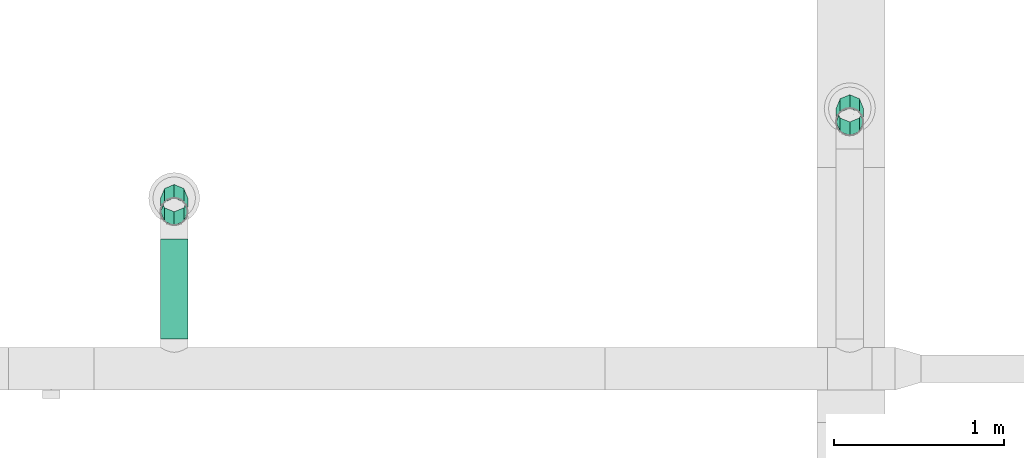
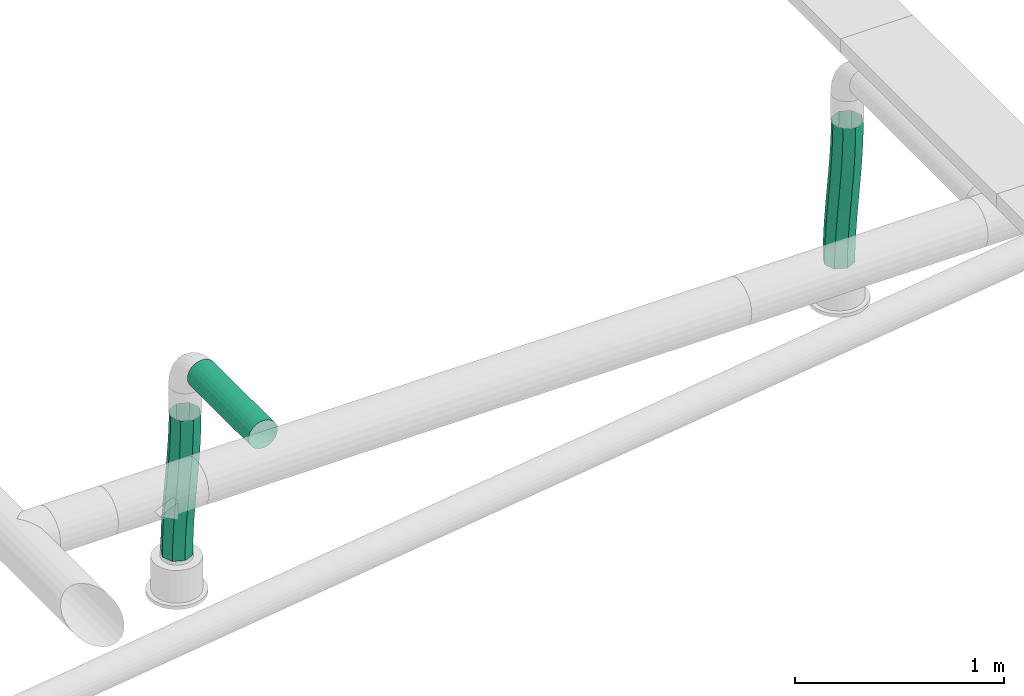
# One storey, part 321 of 374: 3 flow segments.
"""IFC2X3 building model written with IfcOpenShell, lengths in metres."""

from ifc_helpers import new_model, si_unit, direction, origin, place, context, subcontext, project, spatial, open_shell, surface_model, source, transform, mapped, element, save


model = new_model("IFC2X3")

# Units and contexts
model_context = context("Model", 3, precision=1e-05, world=origin(), true_north=direction((-0.4480736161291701, 0.8939966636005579)))
body_context = subcontext(model_context, "Body", "Model", "MODEL_VIEW")
ifc_project = project(units=[si_unit("LENGTHUNIT", "METRE"), si_unit("AREAUNIT", "SQUARE_METRE"), si_unit("VOLUMEUNIT", "CUBIC_METRE"), si_unit("PLANEANGLEUNIT", "RADIAN"), si_unit("THERMODYNAMICTEMPERATUREUNIT", "KELVIN"), si_unit("MASSUNIT", "GRAM", prefix="KILO"), si_unit("TIMEUNIT", "SECOND")], contexts=[model_context])

# Site, building, storey
site_placement = place(None, origin())
site = spatial("IfcSite", under=ifc_project, at=site_placement, Name="Site 1", CompositionType="ELEMENT")
building_placement = place(site_placement, origin())
building = spatial("IfcBuilding", under=site, at=building_placement, Name="Undefined", CompositionType="ELEMENT")
storey_placement = place(building_placement, origin())
storey = spatial("IfcBuildingStorey", under=building, at=storey_placement, Name="Rez de chauss\x8ee", CompositionType="ELEMENT", Elevation=0.0)

# Flow segments
shared_shape_1 = source(origin(), body_context, "Body", "SurfaceModel", [
    surface_model("IfcFaceBasedSurfaceModel", [(0.0, 0.020884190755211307, 0.0), (0.0, 0.0, 0.0), (0.5860112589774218, 0.0, 0.0), (0.5860112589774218, 0.020884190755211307, 0.0), (0.0, -0.020172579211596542, -0.005405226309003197), (0.5860112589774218, -0.020172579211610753, -0.005405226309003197), (0.0, -0.03825881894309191, -0.015847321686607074), (0.5860112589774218, -0.038258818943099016, -0.015847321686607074), (0.0, -0.05302617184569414, -0.0306146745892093), (0.5860112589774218, -0.05302617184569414, -0.0306146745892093), (0.0, -0.06346826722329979, -0.04870091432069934), (0.5860112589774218, -0.06346826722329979, -0.048700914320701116), (0.0, -0.06887349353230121, -0.06887349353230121), (0.5860112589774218, -0.06887349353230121, -0.06887349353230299), (0.0, -0.06887349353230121, -0.08975768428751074), (0.5860112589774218, -0.06887349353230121, -0.08975768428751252), (0.0, -0.06346826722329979, -0.10993026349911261), (0.5860112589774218, -0.06346826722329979, -0.10993026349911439), (0.0, -0.05302617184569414, -0.12801650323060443), (0.5860112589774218, -0.05302617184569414, -0.12801650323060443), (0.0, -0.038258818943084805, -0.14278385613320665), (0.5860112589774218, -0.03825881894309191, -0.14278385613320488), (0.0, -0.020172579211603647, -0.15322595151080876), (0.5860112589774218, -0.020172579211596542, -0.15322595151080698), (0.0, 7.105427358e-15, -0.15863117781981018), (0.5860112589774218, 7.105427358e-15, -0.15863117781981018), (0.0, 0.020884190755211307, -0.15863117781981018), (0.5860112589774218, 0.020884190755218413, -0.1586311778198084), (0.0, 0.04105676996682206, -0.15322595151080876), (0.5860112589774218, 0.04105676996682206, -0.15322595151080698), (0.0, 0.05914300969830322, -0.1427838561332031), (0.5860112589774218, 0.05914300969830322, -0.14278385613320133), (0.0, 0.07391036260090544, -0.12801650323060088), (0.5860112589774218, 0.07391036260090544, -0.1280165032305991), (0.0, 0.0843524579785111, -0.10993026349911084), (0.5860112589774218, 0.0843524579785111, -0.10993026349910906), (0.0, 0.08975768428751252, -0.08975768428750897), (0.5860112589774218, 0.08975768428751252, -0.08975768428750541), (0.0, 0.08975768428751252, -0.06887349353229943), (0.5860112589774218, 0.08975768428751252, -0.06887349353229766), (0.0, 0.0843524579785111, -0.048700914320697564), (0.5860112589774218, 0.0843524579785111, -0.04870091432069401), (0.0, 0.07391036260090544, -0.030614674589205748), (0.5860112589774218, 0.07391036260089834, -0.030614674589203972), (0.0, 0.05914300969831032, -0.015847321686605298), (0.5860112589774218, 0.05914300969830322, -0.015847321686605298), (0.0, 0.04105676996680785, -0.005405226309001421), (0.5860112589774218, 0.041056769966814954, -0.005405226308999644)], [open_shell([[[0, 1, 2, 3]], [[1, 4, 5, 2]], [[4, 6, 7, 5]], [[6, 8, 9, 7]], [[8, 10, 11, 9]], [[10, 12, 13, 11]], [[12, 14, 15, 13]], [[14, 16, 17, 15]], [[16, 18, 19, 17]], [[18, 20, 21, 19]], [[20, 22, 23, 21]], [[22, 24, 25, 23]], [[24, 26, 27, 25]], [[26, 28, 29, 27]], [[28, 30, 31, 29]], [[30, 32, 33, 31]], [[32, 34, 35, 33]], [[34, 36, 37, 35]], [[36, 38, 39, 37]], [[38, 40, 41, 39]], [[40, 42, 43, 41]], [[42, 44, 45, 43]], [[44, 46, 47, 45]], [[46, 0, 3, 47]]])]),
])
flow_segment_1_placement = place(storey_placement, origin())
element("IfcFlowSegment", 1, at=flow_segment_1_placement, inside=storey, Name="Tube", ObjectType="Tube", context=body_context, shape_type="MappedRepresentation", body=[
    mapped(shared_shape_1, transform((53.41731591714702, 22.832875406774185, 3.877274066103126), x_axis=(0.0, 1.0, 0.0), y_axis=(-0.9914448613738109, 0.0, 0.1305261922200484), z_axis=(0.1305261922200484, 0.0, 0.9914448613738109))),
])
shared_shape_2 = source(origin(), body_context, "Body", "SurfaceModel", [
    surface_model("IfcFaceBasedSurfaceModel", [(0.09425708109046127, 7.105427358e-15, 0.0), (0.05356602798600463, 0.045752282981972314, 0.0), (0.0, 0.0, 0.0), (0.03894014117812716, -0.047251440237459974, -1.1507138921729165e-06), (-0.05541274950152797, -0.04404152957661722, 0.0010358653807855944), (-0.017993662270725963, -0.0925064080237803, 0.0010617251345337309), (-0.11243305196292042, -0.08679099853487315, 0.002911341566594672), (-0.0762209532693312, -0.1361641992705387, 0.0029758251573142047), (-0.17075715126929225, -0.1286221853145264, 0.005426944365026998), (-0.13541835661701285, -0.17862411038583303, 0.005528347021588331), (-0.23007333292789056, -0.16991458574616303, 0.008379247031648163), (-0.19526249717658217, -0.22028543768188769, 0.00850648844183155), (-0.2900642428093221, -0.21105506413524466, 0.011560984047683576), (-0.2554300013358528, -0.2615474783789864, 0.011697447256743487), (-0.3504083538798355, -0.2524386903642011, 0.014761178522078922), (-0.3155975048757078, -0.3028095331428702, 0.014888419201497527), (-0.4107804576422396, -0.29446897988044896, 0.017765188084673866), (-0.37544164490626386, -0.344470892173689, 0.01786658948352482), (-0.4708511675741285, -0.3375576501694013, 0.02035465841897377), (-0.43463905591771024, -0.386930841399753, 0.020419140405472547), (-0.5302854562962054, -0.38212378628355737, 0.02230739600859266), (-0.4928663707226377, -0.4305886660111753, 0.02233325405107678), (-0.5887403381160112, -0.4285921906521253, 0.023397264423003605), (-0.5498002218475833, -0.47584365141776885, 0.02339611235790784), (-0.6458082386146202, -0.477342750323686, 0.02339489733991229), (-0.6051172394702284, -0.523095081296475, 0.023394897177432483), (0.025061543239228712, 0.07834277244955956, -0.043294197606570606), (-0.027779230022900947, 0.033211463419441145, -0.043293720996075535), (-0.08256193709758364, -0.010327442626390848, -0.042269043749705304), (-0.13908228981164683, -0.052700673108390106, -0.04040956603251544), (-0.1970446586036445, -0.09427143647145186, -0.03790925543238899), (-0.2561421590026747, -0.13541102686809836, -0.03496765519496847), (-0.31605992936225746, -0.17650115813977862, -0.03178973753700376), (-0.3764771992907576, -0.21793514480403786, -0.02858572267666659), (-0.4370679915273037, -0.2601182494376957, -0.025571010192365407), (-0.49750042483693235, -0.30346733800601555, -0.022966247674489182), (-0.5574346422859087, -0.3484096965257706, -0.020997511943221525), (-0.6165195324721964, -0.3953806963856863, -0.01989645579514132), (-0.674312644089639, -0.4447521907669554, -0.019899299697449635), (0.025441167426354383, 0.07868040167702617, -0.10452143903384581), (-0.028124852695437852, 0.03292812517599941, -0.10452143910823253), (-0.08353759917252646, -0.011113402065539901, -0.10348557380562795), (-0.14055790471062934, -0.053862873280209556, -0.10161009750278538), (-0.19888201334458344, -0.09569406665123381, -0.09909449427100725), (-0.2581982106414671, -0.1369864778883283, -0.09614219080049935), (-0.31818914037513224, -0.17812696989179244, -0.09296045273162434), (-0.3785332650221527, -0.21951060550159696, -0.08976025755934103), (-0.43890536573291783, -0.26154089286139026, -0.08675624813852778), (-0.49897605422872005, -0.30462954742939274, -0.0841667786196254), (-0.5584103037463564, -0.3491956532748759, -0.08221404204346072), (-0.616865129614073, -0.3956640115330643, -0.08112417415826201), (-0.6739329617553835, -0.44441451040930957, -0.08112654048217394), (0.05448252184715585, 0.0465673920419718, -0.14781563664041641), (-0.0008344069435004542, -0.0006840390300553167, -0.14781678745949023), (-0.057768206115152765, -0.045939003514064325, -0.14675391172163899), (-0.1159955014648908, -0.08959679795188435, -0.1448398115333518), (-0.17519291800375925, -0.13205671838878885, -0.14228728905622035), (-0.2350370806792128, -0.1737180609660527, -0.13930914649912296), (-0.29520461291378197, -0.21498012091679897, -0.1361181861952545), (-0.3553721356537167, -0.25624218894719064, -0.1329272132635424), (-0.41521627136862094, -0.2979035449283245, -0.12994904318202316), (-0.4744136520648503, -0.34036347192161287, -0.12739649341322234), (-0.5326409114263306, -0.38402125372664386, -0.12548238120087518), (-0.58957468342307, -0.42927617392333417, -0.12441952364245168), (-0.6448916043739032, -0.4765275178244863, -0.12442073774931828), (0.0951735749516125, 0.0008151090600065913, -0.14781563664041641), (0.03810573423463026, -0.0479354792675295, -0.1478179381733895), (-0.02034911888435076, -0.0944038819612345, -0.14672805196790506), (-0.07978340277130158, -0.13896999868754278, -0.14477532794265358), (-0.1398541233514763, -0.1820586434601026, -0.14218588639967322), (-0.20022624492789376, -0.22408891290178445, -0.13918190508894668), (-0.2605703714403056, -0.2654725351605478, -0.1359817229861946), (-0.32056128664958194, -0.30661303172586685, -0.1327999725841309), (-0.3798774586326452, -0.3479054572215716, -0.1298476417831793), (-0.4382015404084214, -0.38973666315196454, -0.12733201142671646), (-0.49522182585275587, -0.4324861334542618, -0.12545652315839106), (-0.5506345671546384, -0.47652763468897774, -0.12442067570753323), (-0.6042006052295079, -0.5222798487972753, -0.12442073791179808), (0.12367805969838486, -0.03177538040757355, -0.1045214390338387), (0.06588496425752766, -0.08114694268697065, -0.10452421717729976), (0.006800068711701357, -0.12811796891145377, -0.10342314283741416), (-0.05313416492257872, -0.17306032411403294, -0.10145442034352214), (-0.11356661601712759, -0.21640939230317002, -0.09884968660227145), (-0.17415741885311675, -0.258592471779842, -0.09583500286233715), (-0.23457468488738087, -0.30002644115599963, -0.09263100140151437), (-0.2944924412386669, -0.34111657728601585, -0.08945307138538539), (-0.3535899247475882, -0.3822561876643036, -0.08651144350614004), (-0.41155228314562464, -0.4238269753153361, -0.08401110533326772), (-0.46807263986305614, -0.46620022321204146, -0.08215161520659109), (-0.522855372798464, -0.5097391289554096, -0.08112695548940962), (-0.5756961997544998, -0.5548704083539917, -0.08112654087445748), (0.12329843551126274, -0.03211300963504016, -0.043294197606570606), (0.06623058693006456, -0.0808636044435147, -0.043296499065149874), (0.007775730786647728, -0.12733200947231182, -0.04220661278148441), (-0.05165855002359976, -0.17189812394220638, -0.04025388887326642), (-0.11172926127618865, -0.21498676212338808, -0.03766444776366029), (-0.1721013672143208, -0.2570170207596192, -0.03466046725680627), (-0.23244547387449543, -0.2984006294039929, -0.031460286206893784), (-0.2924363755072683, -0.33954111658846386, -0.02827853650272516), (-0.3517525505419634, -0.3808335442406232, -0.025326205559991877), (-0.4100766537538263, -0.4226647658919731, -0.022810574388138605), (-0.4670969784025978, -0.46541426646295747, -0.02093508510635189), (-0.5225097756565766, -0.5094558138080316, -0.019899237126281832), (-0.5760758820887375, -0.5552080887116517, -0.019899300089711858)], [open_shell([[[0, 1, 2]], [[2, 3, 0]], [[3, 2, 4]], [[4, 5, 3]], [[5, 4, 6]], [[6, 7, 5]], [[7, 6, 8]], [[8, 9, 7]], [[9, 8, 10]], [[10, 11, 9]], [[11, 10, 12]], [[12, 13, 11]], [[13, 12, 14]], [[14, 15, 13]], [[15, 14, 16]], [[16, 17, 15]], [[17, 16, 18]], [[18, 19, 17]], [[19, 18, 20]], [[20, 21, 19]], [[21, 20, 22]], [[22, 23, 21]], [[23, 22, 24]], [[24, 25, 23]], [[1, 26, 27]], [[27, 2, 1]], [[2, 27, 28]], [[28, 4, 2]], [[4, 28, 29]], [[29, 6, 4]], [[6, 29, 30]], [[30, 8, 6]], [[8, 30, 31]], [[31, 10, 8]], [[10, 31, 32]], [[32, 12, 10]], [[12, 32, 33]], [[33, 14, 12]], [[14, 33, 34]], [[34, 16, 14]], [[16, 34, 35]], [[35, 18, 16]], [[18, 35, 36]], [[36, 20, 18]], [[20, 36, 37]], [[37, 22, 20]], [[22, 37, 38]], [[38, 24, 22]], [[26, 39, 40]], [[40, 27, 26]], [[27, 40, 41]], [[41, 28, 27]], [[28, 41, 42]], [[42, 29, 28]], [[29, 42, 43]], [[43, 30, 29]], [[30, 43, 44]], [[44, 31, 30]], [[31, 44, 45]], [[45, 32, 31]], [[32, 45, 46]], [[46, 33, 32]], [[33, 46, 47]], [[47, 34, 33]], [[34, 47, 48]], [[48, 35, 34]], [[35, 48, 49]], [[49, 36, 35]], [[36, 49, 50]], [[50, 37, 36]], [[37, 50, 51]], [[51, 38, 37]], [[39, 52, 53]], [[53, 40, 39]], [[40, 53, 54]], [[54, 41, 40]], [[41, 54, 55]], [[55, 42, 41]], [[42, 55, 56]], [[56, 43, 42]], [[43, 56, 57]], [[57, 44, 43]], [[44, 57, 58]], [[58, 45, 44]], [[45, 58, 59]], [[59, 46, 45]], [[46, 59, 60]], [[60, 47, 46]], [[47, 60, 61]], [[61, 48, 47]], [[48, 61, 62]], [[62, 49, 48]], [[49, 62, 63]], [[63, 50, 49]], [[50, 63, 64]], [[64, 51, 50]], [[52, 65, 66]], [[66, 53, 52]], [[53, 66, 67]], [[67, 54, 53]], [[54, 67, 68]], [[68, 55, 54]], [[55, 68, 69]], [[69, 56, 55]], [[56, 69, 70]], [[70, 57, 56]], [[57, 70, 71]], [[71, 58, 57]], [[58, 71, 72]], [[72, 59, 58]], [[59, 72, 73]], [[73, 60, 59]], [[60, 73, 74]], [[74, 61, 60]], [[61, 74, 75]], [[75, 62, 61]], [[62, 75, 76]], [[76, 63, 62]], [[63, 76, 77]], [[77, 64, 63]], [[65, 78, 79]], [[79, 66, 65]], [[66, 79, 80]], [[80, 67, 66]], [[67, 80, 81]], [[81, 68, 67]], [[68, 81, 82]], [[82, 69, 68]], [[69, 82, 83]], [[83, 70, 69]], [[70, 83, 84]], [[84, 71, 70]], [[71, 84, 85]], [[85, 72, 71]], [[72, 85, 86]], [[86, 73, 72]], [[73, 86, 87]], [[87, 74, 73]], [[74, 87, 88]], [[88, 75, 74]], [[75, 88, 89]], [[89, 76, 75]], [[76, 89, 90]], [[90, 77, 76]], [[78, 91, 92]], [[92, 79, 78]], [[79, 92, 93]], [[93, 80, 79]], [[80, 93, 94]], [[94, 81, 80]], [[81, 94, 95]], [[95, 82, 81]], [[82, 95, 96]], [[96, 83, 82]], [[83, 96, 97]], [[97, 84, 83]], [[84, 97, 98]], [[98, 85, 84]], [[85, 98, 99]], [[99, 86, 85]], [[86, 99, 100]], [[100, 87, 86]], [[87, 100, 101]], [[101, 88, 87]], [[88, 101, 102]], [[102, 89, 88]], [[89, 102, 103]], [[103, 90, 89]], [[91, 0, 3]], [[3, 92, 91]], [[92, 3, 5]], [[5, 93, 92]], [[93, 5, 7]], [[7, 94, 93]], [[94, 7, 9]], [[9, 95, 94]], [[95, 9, 11]], [[11, 96, 95]], [[96, 11, 13]], [[13, 97, 96]], [[97, 13, 15]], [[15, 98, 97]], [[98, 15, 17]], [[17, 99, 98]], [[99, 17, 19]], [[19, 100, 99]], [[100, 19, 21]], [[21, 101, 100]], [[101, 21, 23]], [[23, 102, 101]], [[102, 23, 25]], [[25, 103, 102]]])]),
])
flow_segment_2_placement = place(storey_placement, origin())
element("IfcFlowSegment", 2, at=flow_segment_2_placement, inside=storey, Name="Tube flexible", ObjectType="Tube flexible", context=body_context, shape_type="MappedRepresentation", body=[
    mapped(shared_shape_2, transform((53.3400418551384, 23.636982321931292, 3.409570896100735), x_axis=(-0.24859099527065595, -0.6163532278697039, 0.7472022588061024), y_axis=(0.2910462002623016, 0.6882384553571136, 0.664544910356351), z_axis=(-0.923847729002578, 0.38267025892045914, 0.008297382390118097))),
])
shared_shape_3 = source(origin(), body_context, "Body", "SurfaceModel", [
    surface_model("IfcFaceBasedSurfaceModel", [(0.09425708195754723, -7.105427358e-15, 0.0), (0.05356602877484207, 0.04575228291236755, 0.0), (0.0, 0.0, 0.0), (0.03894014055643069, -0.04725144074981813, -1.1506872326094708e-06), (-0.05541275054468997, -0.044041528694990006, 0.0010358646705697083), (-0.01799366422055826, -0.09250640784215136, 0.001061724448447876), (-0.11243305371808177, -0.0867909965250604, 0.002911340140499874), (-0.07622095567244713, -0.13616419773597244, 0.002975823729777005), (-0.1707571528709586, -0.12862218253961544, 0.0054269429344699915), (-0.13541835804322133, -0.17862410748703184, 0.005528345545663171), (-0.2300733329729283, -0.16991458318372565, 0.00837924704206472), (-0.19526249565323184, -0.22028543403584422, 0.008506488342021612), (-0.29006423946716, -0.2110550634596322, 0.011560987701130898), (-0.25542999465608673, -0.2615474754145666, 0.011697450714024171), (-0.3504083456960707, -0.2524386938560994, 0.01476118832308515), (-0.3155974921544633, -0.3028095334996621, 0.01488842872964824), (-0.41078044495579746, -0.29446898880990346, 0.017765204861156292), (-0.3754416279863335, -0.3444708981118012, 0.017866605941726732), (-0.47085115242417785, -0.3375576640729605, 0.020354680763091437), (-0.43463903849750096, -0.3869308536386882, 0.020419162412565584), (-0.5302854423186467, -0.38212380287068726, 0.02230742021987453), (-0.49286635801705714, -0.4305886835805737, 0.022333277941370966), (-0.5887403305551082, -0.4285922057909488, 0.023397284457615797), (-0.5498002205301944, -0.47584367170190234, 0.02339613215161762), (-0.645808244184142, -0.47734275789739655, 0.023394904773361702), (-0.6051172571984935, -0.523095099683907, 0.023394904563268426), (0.025061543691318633, 0.07834277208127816, -0.043294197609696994), (-0.027779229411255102, 0.033211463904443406, -0.04329372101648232), (-0.08256193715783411, -0.010327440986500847, -0.04226904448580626), (-0.13908229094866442, -0.05270067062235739, -0.04040956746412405), (-0.19704466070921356, -0.09427143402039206, -0.03790925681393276), (-0.2561421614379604, -0.13541102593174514, -0.03496765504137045), (-0.31605993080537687, -0.17650116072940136, -0.03178973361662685), (-0.37647719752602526, -0.21793515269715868, -0.028585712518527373), (-0.437067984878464, -0.2601182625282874, -0.025570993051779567), (-0.49750041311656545, -0.30346735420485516, -0.022966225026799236), (-0.5574346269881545, -0.3484097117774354, -0.020997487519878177), (-0.6165195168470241, -0.3953807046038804, -0.019896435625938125), (-0.6743126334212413, -0.44475218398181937, -0.019899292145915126), (0.025441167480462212, 0.07868040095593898, -0.10452143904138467), (-0.02812485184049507, 0.03292812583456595, -0.10452143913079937), (-0.08353759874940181, -0.011113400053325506, -0.10348557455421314), (-0.14055790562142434, -0.05386287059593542, -0.10161009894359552), (-0.19888201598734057, -0.09569406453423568, -0.09909449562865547), (-0.2581982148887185, -0.1369864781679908, -0.0961421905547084), (-0.3181891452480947, -0.17812697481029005, -0.09296044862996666), (-0.37853326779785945, -0.21951061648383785, -0.08976024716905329), (-0.43890536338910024, -0.2615409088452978, -0.08675623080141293), (-0.49897604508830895, -0.3046295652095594, -0.08416675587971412), (-0.5584102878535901, -0.34919566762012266, -0.08221401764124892), (-0.6168651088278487, -0.39566401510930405, -0.08112415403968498), (-0.6739329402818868, -0.44441449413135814, -0.08112653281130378), (0.05448252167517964, 0.04656739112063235, -0.14781563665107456), (-0.0008344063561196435, -0.0006840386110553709, -0.14781678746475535), (-0.05776820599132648, -0.04593900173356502, -0.146753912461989), (-0.1159955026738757, -0.08959679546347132, -0.14483981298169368), (-0.175192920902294, -0.13205671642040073, -0.14228729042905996), (-0.23503708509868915, -0.17371806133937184, -0.13930914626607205), (-0.2952046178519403, -0.21498012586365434, -0.13611818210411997), (-0.35537213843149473, -0.2562421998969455, -0.13292720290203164), (-0.4152162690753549, -0.297903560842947, -0.12994902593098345), (-0.4744136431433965, -0.3403634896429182, -0.12739647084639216), (-0.532640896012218, -0.38402126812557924, -0.12548235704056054), (-0.5895746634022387, -0.4292761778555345, -0.12441950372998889), (-0.6448915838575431, -0.47652750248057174, -0.12442073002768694), (0.09517357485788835, 0.0008151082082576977, -0.14781563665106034), (0.03810573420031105, -0.04793547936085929, -0.14781793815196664), (-0.020349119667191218, -0.09440388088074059, -0.14672805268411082), (-0.07978340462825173, -0.13896999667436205, -0.14477532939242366), (-0.13985412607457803, -0.18205864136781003, -0.14218588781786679), (-0.20022624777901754, -0.2240889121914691, -0.13918190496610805), (-0.26057037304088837, -0.2654725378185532, -0.1359817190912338), (-0.32056128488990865, -0.3066130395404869, -0.13279996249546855), (-0.37987745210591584, -0.3479054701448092, -0.12984762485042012), (-0.4382015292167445, -0.3897366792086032, -0.12733198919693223), (-0.49522181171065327, -0.43248614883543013, -0.1254564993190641), (-0.5506345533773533, -0.4765276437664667, -0.12442065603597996), (-0.6042005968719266, -0.5222798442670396, -0.12442073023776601), (0.12367805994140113, -0.031775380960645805, -0.10452143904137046), (0.0658849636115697, -0.0811469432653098, -0.10452421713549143), (0.006800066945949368, -0.12811796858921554, -0.10342314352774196), (-0.05313416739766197, -0.17306032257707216, -0.10145442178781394), (-0.11356661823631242, -0.2164093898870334, -0.09884968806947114), (-0.17415741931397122, -0.2585924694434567, -0.09583500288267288), (-0.23457468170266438, -0.30002644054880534, -0.09263099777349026), (-0.29449243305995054, -0.34111658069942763, -0.08945306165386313), (-0.3535899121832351, -0.3822561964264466, -0.08651142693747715), (-0.4115522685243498, -0.4238269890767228, -0.08401108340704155), (-0.46807262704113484, -0.4662002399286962, -0.0821515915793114), (-0.5228553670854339, -0.509739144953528, -0.08112693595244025), (-0.5756962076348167, -0.5548704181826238, -0.08112653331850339), (0.12329843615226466, -0.03211300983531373, -0.04329419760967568), (0.06623058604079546, -0.08086360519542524, -0.04329649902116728), (0.00777572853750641, -0.1273320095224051, -0.04220661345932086), (-0.05165855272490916, -0.17189812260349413, -0.040253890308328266), (-0.11172926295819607, -0.21498675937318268, -0.03766444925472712), (-0.17210136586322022, -0.25701701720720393, -0.034660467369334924), (-0.23244546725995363, -0.29840062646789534, -0.03146028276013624), (-0.2924363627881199, -0.33954111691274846, -0.028278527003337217), (-0.3517525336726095, -0.3808335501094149, -0.0253261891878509), (-0.41007663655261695, -0.4226647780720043, -0.022810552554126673), (-0.4670969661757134, -0.4654142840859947, -0.020935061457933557), (-0.5225097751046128, -0.5094558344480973, -0.01989921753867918), (-0.5760759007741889, -0.555208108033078, -0.019899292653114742)], [open_shell([[[0, 1, 2]], [[2, 3, 0]], [[3, 2, 4]], [[4, 5, 3]], [[5, 4, 6]], [[6, 7, 5]], [[7, 6, 8]], [[8, 9, 7]], [[9, 8, 10]], [[10, 11, 9]], [[11, 10, 12]], [[12, 13, 11]], [[13, 12, 14]], [[14, 15, 13]], [[15, 14, 16]], [[16, 17, 15]], [[17, 16, 18]], [[18, 19, 17]], [[19, 18, 20]], [[20, 21, 19]], [[21, 20, 22]], [[22, 23, 21]], [[23, 22, 24]], [[24, 25, 23]], [[1, 26, 27]], [[27, 2, 1]], [[2, 27, 28]], [[28, 4, 2]], [[4, 28, 29]], [[29, 6, 4]], [[6, 29, 30]], [[30, 8, 6]], [[8, 30, 31]], [[31, 10, 8]], [[10, 31, 32]], [[32, 12, 10]], [[12, 32, 33]], [[33, 14, 12]], [[14, 33, 34]], [[34, 16, 14]], [[16, 34, 35]], [[35, 18, 16]], [[18, 35, 36]], [[36, 20, 18]], [[20, 36, 37]], [[37, 22, 20]], [[22, 37, 38]], [[38, 24, 22]], [[26, 39, 40]], [[40, 27, 26]], [[27, 40, 41]], [[41, 28, 27]], [[28, 41, 42]], [[42, 29, 28]], [[29, 42, 43]], [[43, 30, 29]], [[30, 43, 44]], [[44, 31, 30]], [[31, 44, 45]], [[45, 32, 31]], [[32, 45, 46]], [[46, 33, 32]], [[33, 46, 47]], [[47, 34, 33]], [[34, 47, 48]], [[48, 35, 34]], [[35, 48, 49]], [[49, 36, 35]], [[36, 49, 50]], [[50, 37, 36]], [[37, 50, 51]], [[51, 38, 37]], [[39, 52, 53]], [[53, 40, 39]], [[40, 53, 54]], [[54, 41, 40]], [[41, 54, 55]], [[55, 42, 41]], [[42, 55, 56]], [[56, 43, 42]], [[43, 56, 57]], [[57, 44, 43]], [[44, 57, 58]], [[58, 45, 44]], [[45, 58, 59]], [[59, 46, 45]], [[46, 59, 60]], [[60, 47, 46]], [[47, 60, 61]], [[61, 48, 47]], [[48, 61, 62]], [[62, 49, 48]], [[49, 62, 63]], [[63, 50, 49]], [[50, 63, 64]], [[64, 51, 50]], [[52, 65, 66]], [[66, 53, 52]], [[53, 66, 67]], [[67, 54, 53]], [[54, 67, 68]], [[68, 55, 54]], [[55, 68, 69]], [[69, 56, 55]], [[56, 69, 70]], [[70, 57, 56]], [[57, 70, 71]], [[71, 58, 57]], [[58, 71, 72]], [[72, 59, 58]], [[59, 72, 73]], [[73, 60, 59]], [[60, 73, 74]], [[74, 61, 60]], [[61, 74, 75]], [[75, 62, 61]], [[62, 75, 76]], [[76, 63, 62]], [[63, 76, 77]], [[77, 64, 63]], [[65, 78, 79]], [[79, 66, 65]], [[66, 79, 80]], [[80, 67, 66]], [[67, 80, 81]], [[81, 68, 67]], [[68, 81, 82]], [[82, 69, 68]], [[69, 82, 83]], [[83, 70, 69]], [[70, 83, 84]], [[84, 71, 70]], [[71, 84, 85]], [[85, 72, 71]], [[72, 85, 86]], [[86, 73, 72]], [[73, 86, 87]], [[87, 74, 73]], [[74, 87, 88]], [[88, 75, 74]], [[75, 88, 89]], [[89, 76, 75]], [[76, 89, 90]], [[90, 77, 76]], [[78, 91, 92]], [[92, 79, 78]], [[79, 92, 93]], [[93, 80, 79]], [[80, 93, 94]], [[94, 81, 80]], [[81, 94, 95]], [[95, 82, 81]], [[82, 95, 96]], [[96, 83, 82]], [[83, 96, 97]], [[97, 84, 83]], [[84, 97, 98]], [[98, 85, 84]], [[85, 98, 99]], [[99, 86, 85]], [[86, 99, 100]], [[100, 87, 86]], [[87, 100, 101]], [[101, 88, 87]], [[88, 101, 102]], [[102, 89, 88]], [[89, 102, 103]], [[103, 90, 89]], [[91, 0, 3]], [[3, 92, 91]], [[92, 3, 5]], [[5, 93, 92]], [[93, 5, 7]], [[7, 94, 93]], [[94, 7, 9]], [[9, 95, 94]], [[95, 9, 11]], [[11, 96, 95]], [[96, 11, 13]], [[13, 97, 96]], [[97, 13, 15]], [[15, 98, 97]], [[98, 15, 17]], [[17, 99, 98]], [[99, 17, 19]], [[19, 100, 99]], [[100, 19, 21]], [[21, 101, 100]], [[101, 21, 23]], [[23, 102, 101]], [[102, 23, 25]], [[25, 103, 102]]])]),
])
flow_segment_3_placement = place(storey_placement, origin())
element("IfcFlowSegment", 3, at=flow_segment_3_placement, inside=storey, Name="Tube flexible", ObjectType="Tube flexible", context=body_context, shape_type="MappedRepresentation", body=[
    mapped(shared_shape_3, transform((57.30443187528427, 24.163892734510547, 3.4095708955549), x_axis=(-0.2485910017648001, -0.6163532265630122, 0.747202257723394), y_axis=(0.29104619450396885, 0.6882384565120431, 0.6645449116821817), z_axis=(-0.9238477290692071, 0.3826702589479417, 0.008297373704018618))),
])

save(model, "model.ifc")
